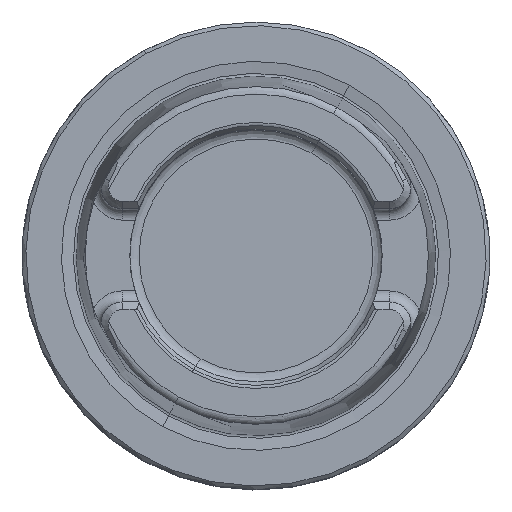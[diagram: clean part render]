
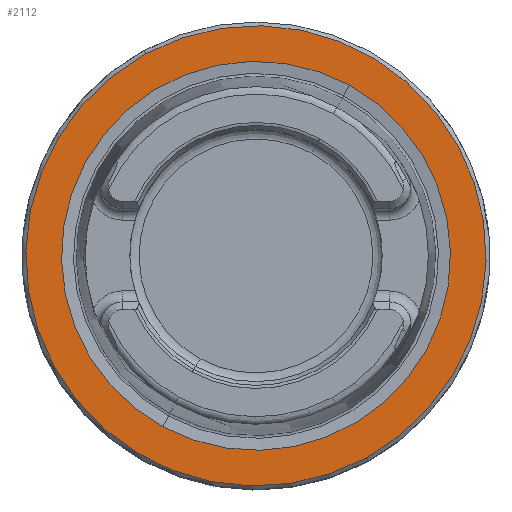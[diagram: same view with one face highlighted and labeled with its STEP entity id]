
A CAD part, top view. The second image highlights one B-rep face of the part: STEP entity #2112.
In plain terms, the highlighted planar face has unit normal (0, 0, 1).
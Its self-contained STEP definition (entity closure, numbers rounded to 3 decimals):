
#2049=AXIS2_PLACEMENT_3D('Circle Axis2P3D',#2047,#2048,$) ;
#2075=AXIS2_PLACEMENT_3D('Circle Axis2P3D',#2073,#2074,$) ;
#2088=AXIS2_PLACEMENT_3D('Plane Axis2P3D',#2085,#2086,#2087) ;
#2092=AXIS2_PLACEMENT_3D('Circle Axis2P3D',#2090,#2091,$) ;
#2101=AXIS2_PLACEMENT_3D('Circle Axis2P3D',#2099,#2100,$) ;
#2047=CARTESIAN_POINT('Axis2P3D Location',(0.,0.,0.)) ;
#2051=CARTESIAN_POINT('Vertex',(12.561,22.993,0.)) ;
#2053=CARTESIAN_POINT('Vertex',(-12.561,-22.993,0.)) ;
#2073=CARTESIAN_POINT('Axis2P3D Location',(0.,0.,0.)) ;
#2085=CARTESIAN_POINT('Axis2P3D Location',(0.,-24.321,0.)) ;
#2090=CARTESIAN_POINT('Axis2P3D Location',(0.,0.,0.)) ;
#2094=CARTESIAN_POINT('Vertex',(14.862,-27.205,0.)) ;
#2096=CARTESIAN_POINT('Vertex',(-14.862,27.205,0.)) ;
#2099=CARTESIAN_POINT('Axis2P3D Location',(0.,0.,0.)) ;
#2048=DIRECTION('Axis2P3D Direction',(0.,0.,1.)) ;
#2074=DIRECTION('Axis2P3D Direction',(0.,0.,1.)) ;
#2086=DIRECTION('Axis2P3D Direction',(0.,0.,-1.)) ;
#2087=DIRECTION('Axis2P3D XDirection',(-1.,0.,0.)) ;
#2091=DIRECTION('Axis2P3D Direction',(0.,0.,-1.)) ;
#2100=DIRECTION('Axis2P3D Direction',(0.,0.,-1.)) ;
#2105=ORIENTED_EDGE('',*,*,#2098,.F.) ;
#2106=ORIENTED_EDGE('',*,*,#2103,.F.) ;
#2109=ORIENTED_EDGE('',*,*,#2055,.T.) ;
#2110=ORIENTED_EDGE('',*,*,#2077,.T.) ;
#2111=FACE_BOUND('',#2108,.T.) ;
#2112=ADVANCED_FACE('NO_CUT',(#2107,#2111),#2089,.F.) ;
#2050=CIRCLE('generated circle',#2049,26.2) ;
#2076=CIRCLE('generated circle',#2075,26.2) ;
#2093=CIRCLE('generated circle',#2092,31.) ;
#2102=CIRCLE('generated circle',#2101,31.) ;
#2055=EDGE_CURVE('',#2052,#2054,#2050,.F.) ;
#2077=EDGE_CURVE('',#2054,#2052,#2076,.F.) ;
#2098=EDGE_CURVE('',#2095,#2097,#2093,.T.) ;
#2103=EDGE_CURVE('',#2097,#2095,#2102,.T.) ;
#2104=EDGE_LOOP('',(#2105,#2106)) ;
#2108=EDGE_LOOP('',(#2109,#2110)) ;
#2107=FACE_OUTER_BOUND('',#2104,.T.) ;
#2089=PLANE('',#2088) ;
#2052=VERTEX_POINT('',#2051) ;
#2054=VERTEX_POINT('',#2053) ;
#2095=VERTEX_POINT('',#2094) ;
#2097=VERTEX_POINT('',#2096) ;
